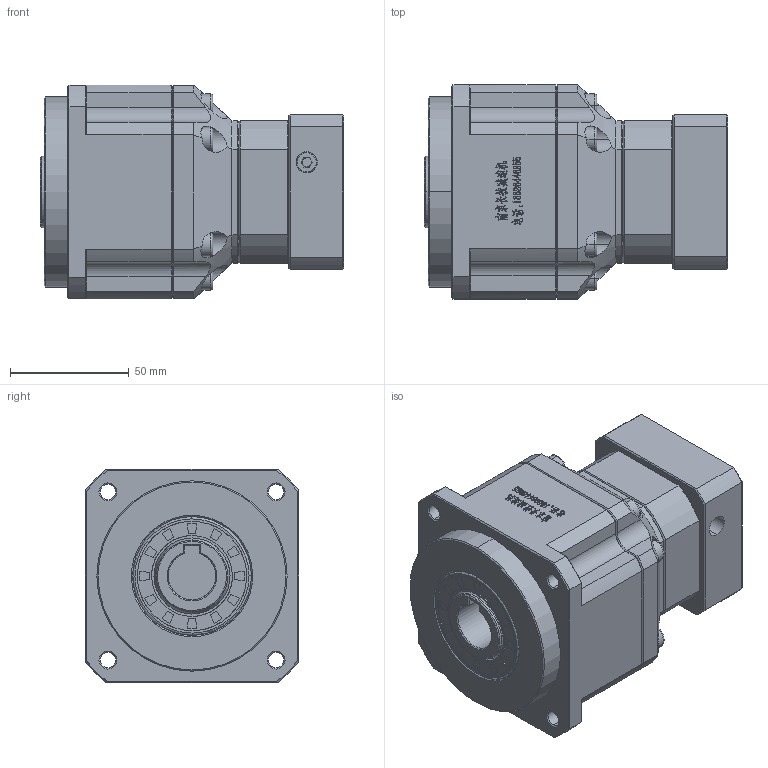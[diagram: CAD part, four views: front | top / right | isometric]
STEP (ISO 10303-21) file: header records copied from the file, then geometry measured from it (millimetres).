
FILE_DESCRIPTION (( 'STEP AP214' ), '1' );
FILE_NAME ('ZPB090-K20-L2-P1-14-60-75-M6.step', '2024-06-07T18:25:43', ( 'Windows 蚚誧' ), ( 'Organization' ), 'SwSTEP 2.0', 'SolidWorks 2016', '' );
FILE_SCHEMA (( 'AUTOMOTIVE_DESIGN' ));
Length unit declared in the file: millimetre
Products named in the file (1): ZPB090-K20-L2-P1-14-60-75-M6
Bounding box: 127.5 x 90 x 90 mm (x, y, z)
Surface area: 68448.1 mm2 (no closed solid volume)
Topology: 0 solids, 33 shells, 2057 faces, 5443 edges, 3453 vertices
Faces by surface type: plane 1075, bspline 376, cone 299, cylinder 285, torus 22
Entity records: 96296 total; most frequent: CARTESIAN_POINT 44010, ORIENTED_EDGE 10849, DIRECTION 8357, EDGE_CURVE 5443, VERTEX_POINT 3453, VECTOR 3417, LINE 3417, AXIS2_PLACEMENT_3D 2470
